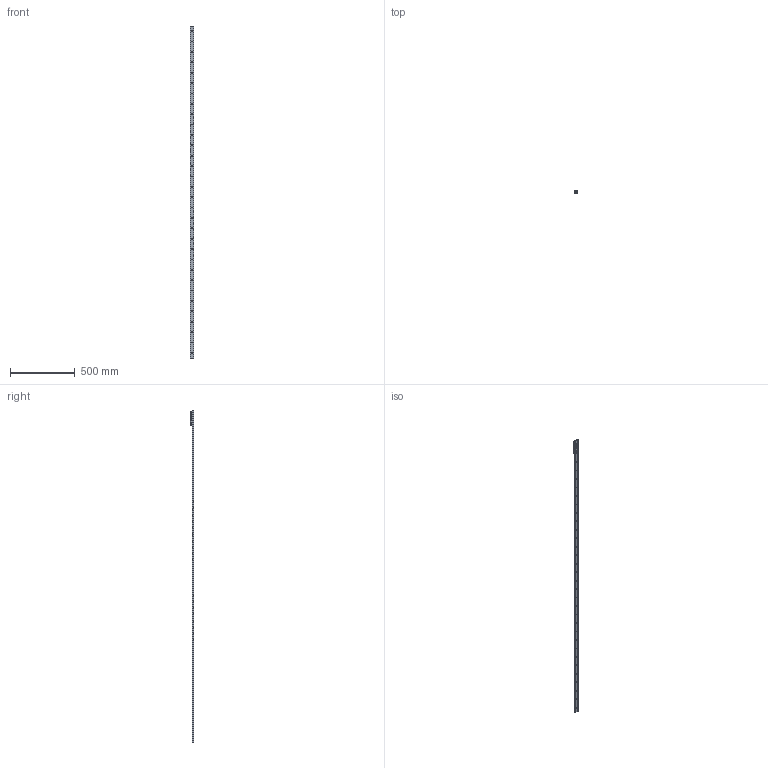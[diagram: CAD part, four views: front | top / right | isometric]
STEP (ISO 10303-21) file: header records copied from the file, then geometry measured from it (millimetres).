
FILE_DESCRIPTION( ( 'STEP AP214' ), '1' );
FILE_NAME( 'p:/temp/worker_23/temp/exporttempdir_484_29_4eWxo/format_2/TGV-02560_1_RV28G-3.stp', '2020-11-20T16:42:03', ( 'License CC BY-ND 4.0' ), ( 'CADENAS' ), ' ', 'PARTsolutions', ' ' );
FILE_SCHEMA( ( 'AUTOMOTIVE_DESIGN { 1 0 10303 214 1 1 1 1 }' ) );
Length unit declared in the file: millimetre
Products named in the file (6): TGV-02560/1/RV28G-3; _TGV28-2560-(3-1); _RV28G-3-slider; _RGNV28R; _RGAV28R; _WR28G-01
Assembly tree (7 placements, depth 2):
  TGV-02560/1/RV28G-3
    _TGV28-2560-(3-1)
    _RV28G-3-slider
    _RGNV28R  x2
    _RGAV28R
    _WR28G-01  x2
Bounding box: 28 x 24 x 2560 mm (x, y, z)
Volume: 406102.5 mm3; surface area: 260814.9 mm2
Topology: 7 solids, 7 shells, 1076 faces, 2805 edges, 1825 vertices
Faces by surface type: plane 657, cylinder 312, cone 72, bspline 26, torus 9
Full cylindrical faces by diameter (mm): 1.27 x4, 2 x2, 2.5 x6, 4 x4, 4.134 x4, 4.2 x3, 5 x3, 5.5 x3, 5.75 x32, 7 x5, 7.5 x1, 8 x6, 10.8 x3, 17 x3, 20.75 x6
Entity records: 26291 total; most frequent: CARTESIAN_POINT 4131, DIRECTION 3520, ORIENTED_EDGE 3186, EDGE_CURVE 1593, AXIS2_PLACEMENT_3D 1365, VERTEX_POINT 1125, EDGE_LOOP 983, LINE 790
